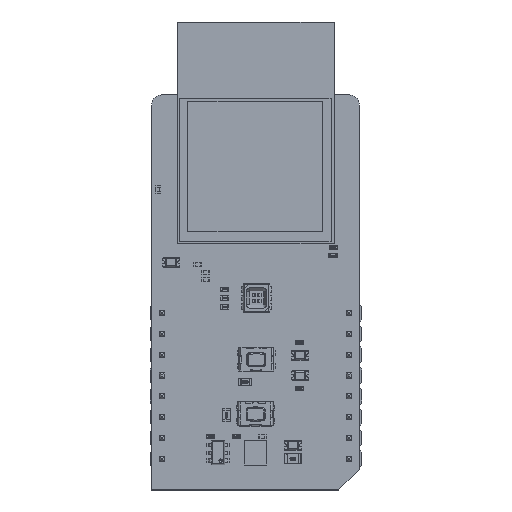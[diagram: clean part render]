
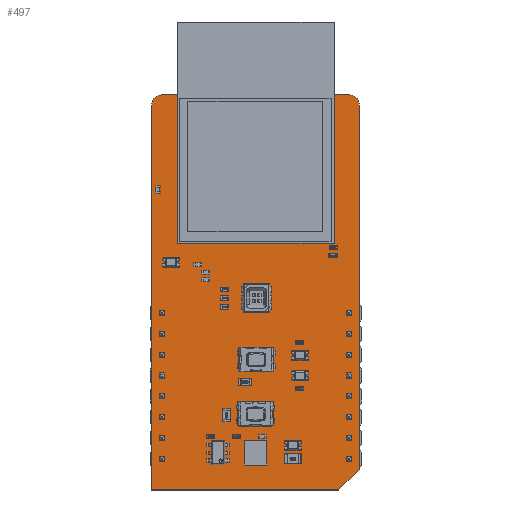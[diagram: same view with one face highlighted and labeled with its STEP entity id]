
A CAD part, top view. The second image highlights one B-rep face of the part: STEP entity #497.
In plain terms, the highlighted planar face has unit normal (0, 0, 1).
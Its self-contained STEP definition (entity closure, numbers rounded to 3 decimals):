
#268 = VERTEX_POINT('',#269);
#269 = CARTESIAN_POINT('',(-1.27,-3.81,1.65));
#275 = EDGE_CURVE('',#268,#276,#278,.T.);
#276 = VERTEX_POINT('',#277);
#277 = CARTESIAN_POINT('',(-1.27,43.18,1.65));
#278 = LINE('',#279,#280);
#279 = CARTESIAN_POINT('',(-1.27,-3.81,1.65));
#280 = VECTOR('',#281,1.);
#281 = DIRECTION('',(0.,1.,0.));
#306 = EDGE_CURVE('',#276,#307,#309,.T.);
#307 = VERTEX_POINT('',#308);
#308 = CARTESIAN_POINT('',(0.,44.45,1.65));
#309 = CIRCLE('',#310,1.27);
#310 = AXIS2_PLACEMENT_3D('',#311,#312,#313);
#311 = CARTESIAN_POINT('',(0.,43.18,1.65)
  );
#312 = DIRECTION('',(0.,0.,-1.));
#313 = DIRECTION('',(-1.,0.,0.));
#339 = EDGE_CURVE('',#307,#340,#342,.T.);
#340 = VERTEX_POINT('',#341);
#341 = CARTESIAN_POINT('',(22.86,44.45,1.65));
#342 = LINE('',#343,#344);
#343 = CARTESIAN_POINT('',(0.,44.45,1.65));
#344 = VECTOR('',#345,1.);
#345 = DIRECTION('',(1.,0.,0.));
#370 = EDGE_CURVE('',#340,#371,#373,.T.);
#371 = VERTEX_POINT('',#372);
#372 = CARTESIAN_POINT('',(24.13,43.18,1.65));
#373 = CIRCLE('',#374,1.27);
#374 = AXIS2_PLACEMENT_3D('',#375,#376,#377);
#375 = CARTESIAN_POINT('',(22.86,43.18,1.65));
#376 = DIRECTION('',(0.,0.,-1.));
#377 = DIRECTION('',(0.,1.,0.));
#403 = EDGE_CURVE('',#371,#404,#406,.T.);
#404 = VERTEX_POINT('',#405);
#405 = CARTESIAN_POINT('',(24.13,-1.27,1.65));
#406 = LINE('',#407,#408);
#407 = CARTESIAN_POINT('',(24.13,43.18,1.65));
#408 = VECTOR('',#409,1.);
#409 = DIRECTION('',(0.,-1.,0.));
#434 = EDGE_CURVE('',#404,#435,#437,.T.);
#435 = VERTEX_POINT('',#436);
#436 = CARTESIAN_POINT('',(21.59,-3.81,1.65));
#437 = LINE('',#438,#439);
#438 = CARTESIAN_POINT('',(24.13,-1.27,1.65));
#439 = VECTOR('',#440,1.);
#440 = DIRECTION('',(-0.707,-0.707,0.));
#465 = EDGE_CURVE('',#435,#268,#466,.T.);
#466 = LINE('',#467,#468);
#467 = CARTESIAN_POINT('',(21.59,-3.81,1.65));
#468 = VECTOR('',#469,1.);
#469 = DIRECTION('',(-1.,0.,0.));
#497 = ADVANCED_FACE('',(#498),#507,.F.);
#498 = FACE_BOUND('',#499,.F.);
#499 = EDGE_LOOP('',(#500,#501,#502,#503,#504,#505,#506));
#500 = ORIENTED_EDGE('',*,*,#275,.T.);
#501 = ORIENTED_EDGE('',*,*,#306,.T.);
#502 = ORIENTED_EDGE('',*,*,#339,.T.);
#503 = ORIENTED_EDGE('',*,*,#370,.T.);
#504 = ORIENTED_EDGE('',*,*,#403,.T.);
#505 = ORIENTED_EDGE('',*,*,#434,.T.);
#506 = ORIENTED_EDGE('',*,*,#465,.T.);
#507 = PLANE('',#508);
#508 = AXIS2_PLACEMENT_3D('',#509,#510,#511);
#509 = CARTESIAN_POINT('',(11.29,20.386,1.65));
#510 = DIRECTION('',(-0.,-0.,-1.));
#511 = DIRECTION('',(-1.,0.,0.));
